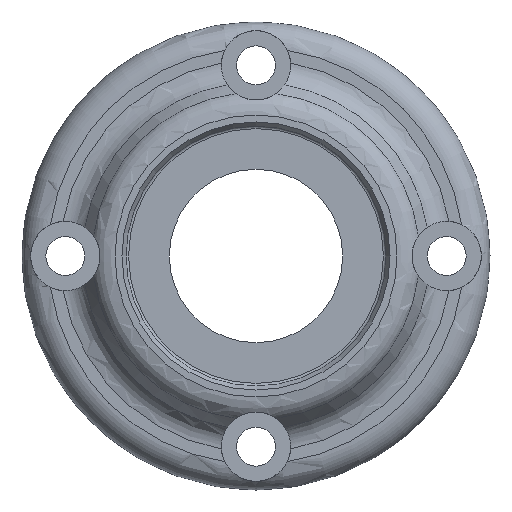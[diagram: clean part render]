
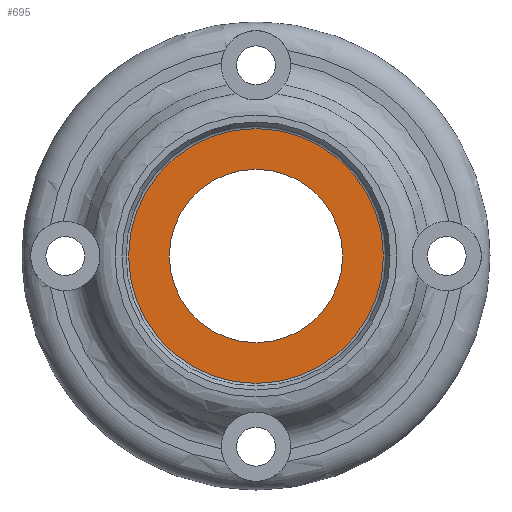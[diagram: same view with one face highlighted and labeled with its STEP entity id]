
A CAD part, left-side view. The second image highlights one B-rep face of the part: STEP entity #695.
In plain terms, the highlighted planar face has unit normal (-1, 0, 0).
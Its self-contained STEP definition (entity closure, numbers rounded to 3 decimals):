
#108=FACE_BOUND('',#196,.T.);
#149=FACE_OUTER_BOUND('',#195,.T.);
#195=EDGE_LOOP('',(#624));
#196=EDGE_LOOP('',(#625));
#260=CIRCLE('',#810,14.7);
#261=CIRCLE('',#812,10.);
#330=VERTEX_POINT('',#1488);
#331=VERTEX_POINT('',#1492);
#431=EDGE_CURVE('',#330,#330,#260,.T.);
#432=EDGE_CURVE('',#331,#331,#261,.T.);
#624=ORIENTED_EDGE('',*,*,#431,.T.);
#625=ORIENTED_EDGE('',*,*,#432,.F.);
#658=PLANE('',#811);
#695=ADVANCED_FACE('',(#149,#108),#658,.T.);
#810=AXIS2_PLACEMENT_3D('',#1490,#1010,#1011);
#811=AXIS2_PLACEMENT_3D('',#1491,#1012,#1013);
#812=AXIS2_PLACEMENT_3D('',#1493,#1014,#1015);
#1010=DIRECTION('center_axis',(-1.,0.,0.));
#1011=DIRECTION('ref_axis',(0.,0.,1.));
#1012=DIRECTION('center_axis',(-1.,0.,0.));
#1013=DIRECTION('ref_axis',(0.,0.,1.));
#1014=DIRECTION('center_axis',(-1.,0.,0.));
#1015=DIRECTION('ref_axis',(0.,0.,1.));
#1488=CARTESIAN_POINT('',(-7.7,0.,-14.7));
#1490=CARTESIAN_POINT('Origin',(-7.7,0.,0.));
#1491=CARTESIAN_POINT('Origin',(-7.7,10.,0.));
#1492=CARTESIAN_POINT('',(-7.7,-10.,0.));
#1493=CARTESIAN_POINT('Origin',(-7.7,0.,0.));
